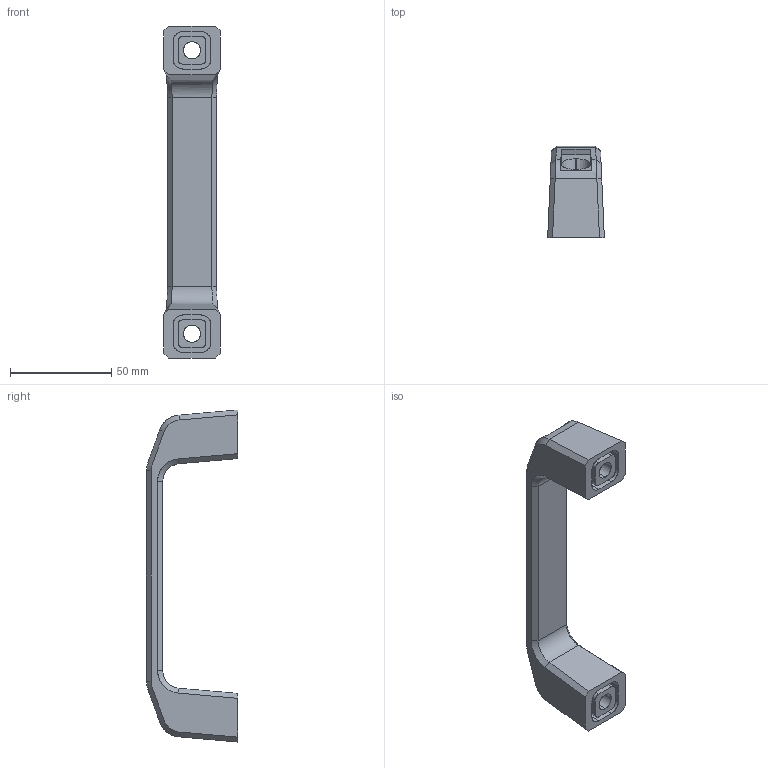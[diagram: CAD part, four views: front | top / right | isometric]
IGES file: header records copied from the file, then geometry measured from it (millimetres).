
Start section: SolidWorks IGES file using analytic representation for surfaces
Global section: file name: C:\Documents and Settings\IANO\Desktop\Temp File\Process pending\PCN pending\79100_v2\79100_v2_20170116_IGES\79100.W0140-0.igs; native system: SolidWorks 2009; preprocessor: SolidWorks 2009; author: IANO; date: 170310.124117; units: millimetre
Bounding box: 28 x 45 x 164 mm (x, y, z)
Surface area: 21796.2 mm2 (no closed solid volume)
Topology: 0 solids, 0 shells, 100 faces, 1080 edges, 1080 vertices
Faces by surface type: bspline 70, revolution 30
